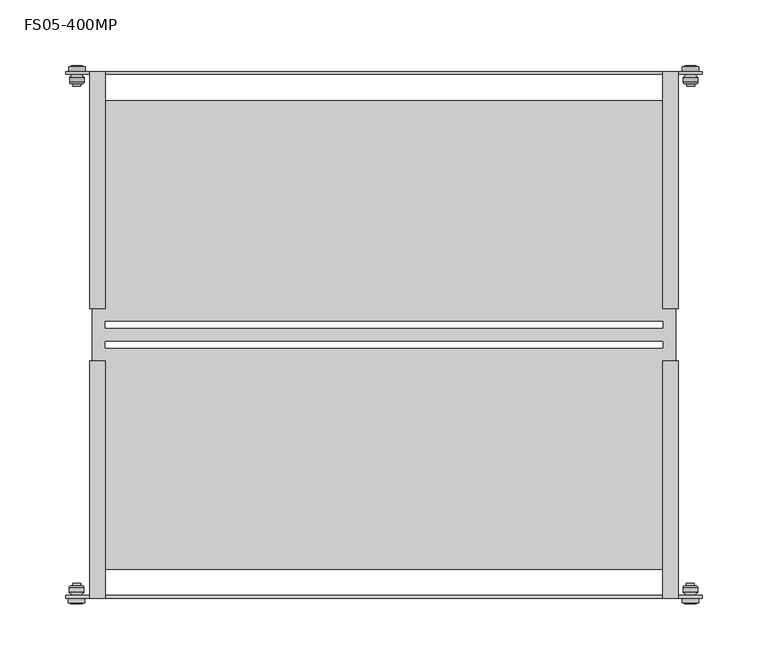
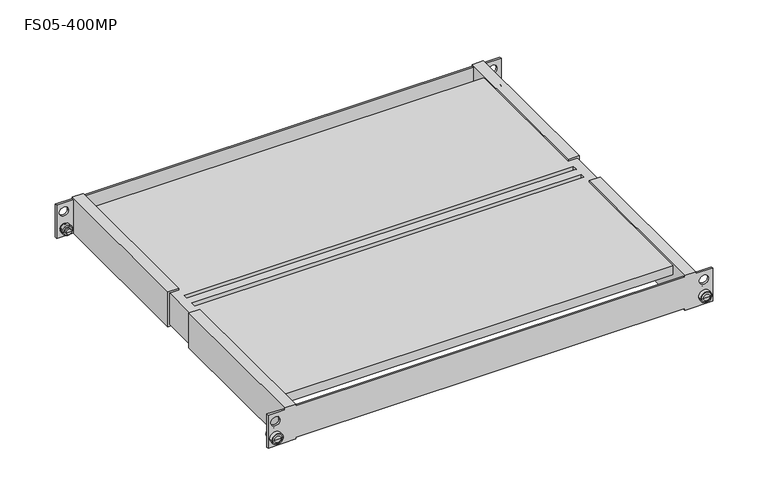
"""IFC4 building model written with IfcOpenShell, lengths in millimetres: proxy geometry, Полки стационарные усиленные : FS05-400MP."""

from ifc_helpers import new_model, si_unit, point, frame, origin, place, context, project, spatial, polyline, circle_curve, ellipse_curve, trimmed, source, transform, mapped, element, save
from ifc_brep_helpers import plane_surface, cylinder_surface, revolved_surface, advanced_brep


def fs05_400mp_c59a2a9c(model_context):
    return source(origin(), model_context, "Body", "AdvancedBrep", [
        advanced_brep(
        [(232.5819993, -204.3499926, 10.0), (236.0759317, -204.3499926, 10.0), (229.0880669, -204.3499926, 10.0), (229.5820007, -188.7499968, 10.0), (235.5819979, -188.7499968, 10.0), (232.5819993, -188.7499968, 10.0), (229.5820007, -190.7999942, 10.0), (235.5819979, -190.7999942, 10.0), (228.0787333, -190.7999942, 10.0), (237.0852653, -190.7999942, 10.0), (227.082003, -191.7967245, 10.0), (238.0819955, -191.7967245, 10.0), (227.082003, -195.8, 10.0), (238.0819955, -195.8, 10.0), (228.4086476, -198.0, 10.0), (236.755351, -198.0, 10.0), (228.4086476, -200.0, 10.0), (236.755351, -200.0, 10.0), (226.3319978, -200.0, 10.0), (238.8320008, -200.0, 10.0), (226.3319978, -203.5000006, 10.0), (238.8320008, -203.5000006, 10.0), (227.2038342, -203.5000006, 10.0), (237.9601644, -203.5000006, 10.0)],
        [
            (0, 1),
            (1, 2, circle_curve(frame((232.5819993, -204.3499926, 10.0), z_axis=(0.0, -1.0, 0.0), x_axis=(1.0, 0.0, 0.0)), 3.4939324)),
            (2, 0),
            (2, 1, circle_curve(frame((232.5819993, -204.3499926, 10.0), z_axis=(0.0, -1.0, 0.0), x_axis=(1.0, 0.0, 0.0)), 3.4939324)),
            (3, 4, circle_curve(frame((232.5819993, -188.7499968, 10.0), z_axis=(0.0, 1.0, 0.0), x_axis=(1.0, 0.0, 0.0)), 2.9999986)),
            (4, 5),
            (5, 3),
            (4, 3, circle_curve(frame((232.5819993, -188.7499968, 10.0), z_axis=(0.0, 1.0, 0.0), x_axis=(1.0, 0.0, 0.0)), 2.9999986)),
            (6, 7, circle_curve(frame((232.5819993, -190.7999942, 10.0), z_axis=(0.0, 1.0, 0.0), x_axis=(1.0, 0.0, 0.0)), 2.9999986)),
            (7, 4),
            (3, 6),
            (7, 6, circle_curve(frame((232.5819993, -190.7999942, 10.0), z_axis=(0.0, 1.0, 0.0), x_axis=(1.0, 0.0, 0.0)), 2.9999986)),
            (8, 9, circle_curve(frame((232.5819993, -190.7999942, 10.0), z_axis=(0.0, 1.0, 0.0), x_axis=(1.0, 0.0, 0.0)), 4.503266)),
            (9, 7),
            (6, 8),
            (9, 8, circle_curve(frame((232.5819993, -190.7999942, 10.0), z_axis=(0.0, 1.0, 0.0), x_axis=(1.0, 0.0, 0.0)), 4.503266)),
            (10, 11, circle_curve(frame((232.5819993, -191.7967245, 10.0), z_axis=(0.0, 1.0, 0.0), x_axis=(1.0, 0.0, 0.0)), 5.4999962)),
            (11, 9, circle_curve(frame((237.0852653, -191.7967245, 10.0), z_axis=(0.0, 0.0, 1.0), x_axis=(-1.0, 0.0, 0.0)), 0.9967303)),
            (8, 10, circle_curve(frame((228.0787333, -191.7967245, 10.0), z_axis=(0.0, 0.0, 1.0), x_axis=(1.0, 0.0, 0.0)), 0.9967303)),
            (11, 10, circle_curve(frame((232.5819993, -191.7967245, 10.0), z_axis=(0.0, 1.0, 0.0), x_axis=(1.0, 0.0, 0.0)), 5.4999962)),
            (12, 13, circle_curve(frame((232.5819993, -195.8, 10.0), z_axis=(0.0, 1.0, 0.0), x_axis=(1.0, 0.0, 0.0)), 5.4999962)),
            (13, 11),
            (10, 12),
            (13, 12, circle_curve(frame((232.5819993, -195.8, 10.0), z_axis=(0.0, 1.0, 0.0), x_axis=(1.0, 0.0, 0.0)), 5.4999962)),
            (14, 15, circle_curve(frame((232.5819993, -198.0, 10.0), z_axis=(0.0, 1.0, 0.0), x_axis=(1.0, 0.0, 0.0)), 4.1733517)),
            (15, 13, circle_curve(frame((238.0820009, -197.3, 10.0), z_axis=(0.0, 0.0, -1.0), x_axis=(-1.0, 0.0, 0.0)), 1.5)),
            (12, 14, circle_curve(frame((227.0819977, -197.3, 10.0), z_axis=(0.0, 0.0, -1.0), x_axis=(1.0, 0.0, 0.0)), 1.5)),
            (15, 14, circle_curve(frame((232.5819993, -198.0, 10.0), z_axis=(0.0, 1.0, 0.0), x_axis=(1.0, 0.0, 0.0)), 4.1733517)),
            (16, 17, circle_curve(frame((232.5819993, -200.0, 10.0), z_axis=(0.0, 1.0, 0.0), x_axis=(1.0, 0.0, 0.0)), 4.1733517)),
            (17, 15),
            (14, 16),
            (17, 16, circle_curve(frame((232.5819993, -200.0, 10.0), z_axis=(0.0, 1.0, 0.0), x_axis=(1.0, 0.0, 0.0)), 4.1733517)),
            (18, 19, circle_curve(frame((232.5819993, -200.0, 10.0), z_axis=(0.0, 1.0, 0.0), x_axis=(1.0, 0.0, 0.0)), 6.2500015)),
            (19, 17),
            (16, 18),
            (19, 18, circle_curve(frame((232.5819993, -200.0, 10.0), z_axis=(0.0, 1.0, 0.0), x_axis=(1.0, 0.0, 0.0)), 6.2500015)),
            (20, 21, circle_curve(frame((232.5819993, -203.5000006, 10.0), z_axis=(0.0, 1.0, 0.0), x_axis=(1.0, 0.0, 0.0)), 6.2500015)),
            (21, 19),
            (18, 20),
            (21, 20, circle_curve(frame((232.5819993, -203.5000006, 10.0), z_axis=(0.0, 1.0, 0.0), x_axis=(1.0, 0.0, 0.0)), 6.2500015)),
            (22, 23, circle_curve(frame((232.5819993, -203.5000006, 10.0), z_axis=(0.0, 1.0, 0.0), x_axis=(1.0, 0.0, 0.0)), 5.3781651)),
            (23, 21),
            (20, 22),
            (23, 22, circle_curve(frame((232.5819993, -203.5000006, 10.0), z_axis=(0.0, 1.0, 0.0), x_axis=(1.0, 0.0, 0.0)), 5.3781651)),
            (1, 23, circle_curve(frame((236.0820009, -201.85, 10.0), z_axis=(0.0, 0.0, 1.0), x_axis=(-1.0, 0.0, 0.0)), 2.5)),
            (22, 2, circle_curve(frame((229.0819977, -201.85, 10.0), z_axis=(0.0, 0.0, 1.0), x_axis=(1.0, 0.0, 0.0)), 2.5)),
        ],
        [
            plane_surface(frame((232.5819993, -204.3499926, 10.0), z_axis=(0.0, -1.0, 0.0), x_axis=(1.0, 0.0, 0.0))),
            plane_surface(frame((232.5819993, -188.7499968, 10.0), z_axis=(0.0, 1.0, 0.0), x_axis=(1.0, 0.0, 0.0))),
            cylinder_surface(frame((232.5819993, 2409.0581012, 10.0), z_axis=(0.0, -1.0, 0.0), x_axis=(1.0, 0.0, 0.0)), 2.9999986),
            plane_surface(frame((232.5819993, -190.7999942, 10.0), z_axis=(0.0, 1.0, 0.0), x_axis=(1.0, 0.0, 0.0))),
            revolved_surface(trimmed(ellipse_curve(frame((237.0852653, -191.7967245, 10.0), z_axis=(0.0, 0.0, -1.0), x_axis=(-1.0, 0.0, 0.0)), 0.9967303, 0.9967303), [point((237.0852653, -190.7999942, 10.0))], [point((238.0819955, -191.7967245, 10.0))], True, "CARTESIAN"), (232.5819993, 2409.0581012, 10.0), (0.0, -1.0, 0.0)),
            cylinder_surface(frame((232.5819993, 2409.0581012, 10.0), z_axis=(0.0, -1.0, 0.0), x_axis=(1.0, 0.0, 0.0)), 5.4999962),
            revolved_surface(trimmed(ellipse_curve(frame((238.0820009, -197.3, 10.0), z_axis=(0.0, 0.0, 1.0), x_axis=(-1.0, 0.0, 0.0)), 1.5, 1.5), [point((238.0819955, -195.8, 10.0))], [point((236.755351, -198.0, 10.0))], True, "CARTESIAN"), (232.5819993, 2409.0581012, 10.0), (0.0, -1.0, 0.0)),
            cylinder_surface(frame((232.5819993, 2409.0581012, 10.0), z_axis=(0.0, -1.0, 0.0), x_axis=(1.0, 0.0, 0.0)), 4.1733517),
            plane_surface(frame((232.5819993, -200.0, 10.0), z_axis=(0.0, 1.0, 0.0), x_axis=(1.0, 0.0, 0.0))),
            cylinder_surface(frame((232.5819993, 2409.0581012, 10.0), z_axis=(0.0, -1.0, 0.0), x_axis=(1.0, 0.0, 0.0)), 6.2500015),
            plane_surface(frame((232.5819993, -203.5000006, 10.0), z_axis=(0.0, -1.0, 0.0), x_axis=(1.0, 0.0, 0.0))),
            revolved_surface(trimmed(ellipse_curve(frame((236.0820009, -201.85, 10.0), z_axis=(0.0, 0.0, -1.0), x_axis=(-1.0, 0.0, 0.0)), 2.5, 2.5), [point((237.9601644, -203.5000006, 10.0))], [point((236.0759317, -204.3499926, 10.0))], True, "CARTESIAN"), (232.5819993, 2409.0581012, 10.0), (0.0, -1.0, 0.0)),
        ],
        [
            (0, [[1, 2, 3]]),
            (0, [[-3, 4, -1]]),
            (1, [[5, 6, 7]]),
            (1, [[8, -7, -6]]),
            (2, [[9, 10, -5, 11]]),
            (2, [[12, -11, -8, -10]]),
            (3, [[13, 14, -9, 15]]),
            (3, [[16, -15, -12, -14]]),
            (4, [[17, 18, -13, 19]]),
            (4, [[20, -19, -16, -18]]),
            (5, [[21, 22, -17, 23]]),
            (5, [[24, -23, -20, -22]]),
            (6, [[25, 26, -21, 27]]),
            (6, [[28, -27, -24, -26]]),
            (7, [[29, 30, -25, 31]]),
            (7, [[32, -31, -28, -30]]),
            (8, [[33, 34, -29, 35]]),
            (8, [[36, -35, -32, -34]]),
            (9, [[37, 38, -33, 39]]),
            (9, [[40, -39, -36, -38]]),
            (10, [[41, 42, -37, 43]]),
            (10, [[44, -43, -40, -42]]),
            (11, [[-2, 45, -41, 46]]),
            (11, [[-4, -46, -44, -45]]),
        ],
    ),
        advanced_brep(
        [(-233.3319993, -204.3499926, 10.0), (-229.8380669, -204.3499926, 10.0), (-236.8259317, -204.3499926, 10.0), (-230.3320007, -188.7499968, 10.0), (-233.3319993, -188.7499968, 10.0), (-236.3319979, -188.7499968, 10.0), (-230.3320007, -190.7999942, 10.0), (-236.3319979, -190.7999942, 10.0), (-228.8287333, -190.7999942, 10.0), (-237.8352653, -190.7999942, 10.0), (-227.832003, -191.7967245, 10.0), (-238.8319955, -191.7967245, 10.0), (-227.832003, -195.8, 10.0), (-238.8319955, -195.8, 10.0), (-229.1586476, -198.0, 10.0), (-237.505351, -198.0, 10.0), (-229.1586476, -200.0, 10.0), (-237.505351, -200.0, 10.0), (-227.0819978, -200.0, 10.0), (-239.5820008, -200.0, 10.0), (-227.0819978, -203.5000006, 10.0), (-239.5820008, -203.5000006, 10.0), (-227.9538342, -203.5000006, 10.0), (-238.7101644, -203.5000006, 10.0)],
        [
            (0, 1),
            (1, 2, circle_curve(frame((-233.3319993, -204.3499926, 10.0), z_axis=(0.0, -1.0, 0.0), x_axis=(-1.0, 0.0, 0.0)), 3.4939324)),
            (2, 0),
            (2, 1, circle_curve(frame((-233.3319993, -204.3499926, 10.0), z_axis=(0.0, -1.0, 0.0), x_axis=(-1.0, 0.0, 0.0)), 3.4939324)),
            (3, 4),
            (4, 5),
            (5, 3, circle_curve(frame((-233.3319993, -188.7499968, 10.0), z_axis=(0.0, 1.0, 0.0), x_axis=(-1.0, 0.0, 0.0)), 2.9999986)),
            (3, 5, circle_curve(frame((-233.3319993, -188.7499968, 10.0), z_axis=(0.0, 1.0, 0.0), x_axis=(-1.0, 0.0, 0.0)), 2.9999986)),
            (6, 3),
            (5, 7),
            (7, 6, circle_curve(frame((-233.3319993, -190.7999942, 10.0), z_axis=(0.0, 1.0, 0.0), x_axis=(-1.0, 0.0, 0.0)), 2.9999986)),
            (6, 7, circle_curve(frame((-233.3319993, -190.7999942, 10.0), z_axis=(0.0, 1.0, 0.0), x_axis=(-1.0, 0.0, 0.0)), 2.9999986)),
            (8, 6),
            (7, 9),
            (9, 8, circle_curve(frame((-233.3319993, -190.7999942, 10.0), z_axis=(0.0, 1.0, 0.0), x_axis=(-1.0, 0.0, 0.0)), 4.503266)),
            (8, 9, circle_curve(frame((-233.3319993, -190.7999942, 10.0), z_axis=(0.0, 1.0, 0.0), x_axis=(-1.0, 0.0, 0.0)), 4.503266)),
            (10, 8, circle_curve(frame((-228.8287333, -191.7967245, 10.0), z_axis=(0.0, 0.0, 1.0), x_axis=(-1.0, 0.0, 0.0)), 0.9967303)),
            (9, 11, circle_curve(frame((-237.8352653, -191.7967245, 10.0), z_axis=(0.0, 0.0, 1.0), x_axis=(1.0, 0.0, 0.0)), 0.9967303)),
            (11, 10, circle_curve(frame((-233.3319993, -191.7967245, 10.0), z_axis=(0.0, 1.0, 0.0), x_axis=(-1.0, 0.0, 0.0)), 5.4999962)),
            (10, 11, circle_curve(frame((-233.3319993, -191.7967245, 10.0), z_axis=(0.0, 1.0, 0.0), x_axis=(-1.0, 0.0, 0.0)), 5.4999962)),
            (12, 10),
            (11, 13),
            (13, 12, circle_curve(frame((-233.3319993, -195.8, 10.0), z_axis=(0.0, 1.0, 0.0), x_axis=(-1.0, 0.0, 0.0)), 5.4999962)),
            (12, 13, circle_curve(frame((-233.3319993, -195.8, 10.0), z_axis=(0.0, 1.0, 0.0), x_axis=(-1.0, 0.0, 0.0)), 5.4999962)),
            (14, 12, circle_curve(frame((-227.8319977, -197.3, 10.0), z_axis=(0.0, 0.0, -1.0), x_axis=(-1.0, 0.0, 0.0)), 1.5)),
            (13, 15, circle_curve(frame((-238.8320009, -197.3, 10.0), z_axis=(0.0, 0.0, -1.0), x_axis=(1.0, 0.0, 0.0)), 1.5)),
            (15, 14, circle_curve(frame((-233.3319993, -198.0, 10.0), z_axis=(0.0, 1.0, 0.0), x_axis=(-1.0, 0.0, 0.0)), 4.1733517)),
            (14, 15, circle_curve(frame((-233.3319993, -198.0, 10.0), z_axis=(0.0, 1.0, 0.0), x_axis=(-1.0, 0.0, 0.0)), 4.1733517)),
            (16, 14),
            (15, 17),
            (17, 16, circle_curve(frame((-233.3319993, -200.0, 10.0), z_axis=(0.0, 1.0, 0.0), x_axis=(-1.0, 0.0, 0.0)), 4.1733517)),
            (16, 17, circle_curve(frame((-233.3319993, -200.0, 10.0), z_axis=(0.0, 1.0, 0.0), x_axis=(-1.0, 0.0, 0.0)), 4.1733517)),
            (18, 16),
            (17, 19),
            (19, 18, circle_curve(frame((-233.3319993, -200.0, 10.0), z_axis=(0.0, 1.0, 0.0), x_axis=(-1.0, 0.0, 0.0)), 6.2500015)),
            (18, 19, circle_curve(frame((-233.3319993, -200.0, 10.0), z_axis=(0.0, 1.0, 0.0), x_axis=(-1.0, 0.0, 0.0)), 6.2500015)),
            (20, 18),
            (19, 21),
            (21, 20, circle_curve(frame((-233.3319993, -203.5000006, 10.0), z_axis=(0.0, 1.0, 0.0), x_axis=(-1.0, 0.0, 0.0)), 6.2500015)),
            (20, 21, circle_curve(frame((-233.3319993, -203.5000006, 10.0), z_axis=(0.0, 1.0, 0.0), x_axis=(-1.0, 0.0, 0.0)), 6.2500015)),
            (22, 20),
            (21, 23),
            (23, 22, circle_curve(frame((-233.3319993, -203.5000006, 10.0), z_axis=(0.0, 1.0, 0.0), x_axis=(-1.0, 0.0, 0.0)), 5.3781651)),
            (22, 23, circle_curve(frame((-233.3319993, -203.5000006, 10.0), z_axis=(0.0, 1.0, 0.0), x_axis=(-1.0, 0.0, 0.0)), 5.3781651)),
            (1, 22, circle_curve(frame((-229.8319977, -201.85, 10.0), z_axis=(0.0, 0.0, 1.0), x_axis=(-1.0, 0.0, 0.0)), 2.5)),
            (23, 2, circle_curve(frame((-236.8320009, -201.85, 10.0), z_axis=(0.0, 0.0, 1.0), x_axis=(1.0, 0.0, 0.0)), 2.5)),
        ],
        [
            plane_surface(frame((-233.3319993, -204.3499926, 10.0), z_axis=(0.0, -1.0, 0.0), x_axis=(-1.0, 0.0, 0.0))),
            plane_surface(frame((-233.3319993, -188.7499968, 10.0), z_axis=(0.0, 1.0, 0.0), x_axis=(-1.0, 0.0, 0.0))),
            cylinder_surface(frame((-233.3319993, 2409.0581012, 10.0), z_axis=(0.0, -1.0, 0.0), x_axis=(-1.0, 0.0, 0.0)), 2.9999986),
            plane_surface(frame((-233.3319993, -190.7999942, 10.0), z_axis=(0.0, 1.0, 0.0), x_axis=(-1.0, 0.0, 0.0))),
            revolved_surface(trimmed(ellipse_curve(frame((-237.8352653, -191.7967245, 10.0), z_axis=(0.0, 0.0, 1.0), x_axis=(1.0, 0.0, 0.0)), 0.9967303, 0.9967303), [point((-237.8352653, -190.7999942, 10.0))], [point((-238.8319955, -191.7967245, 10.0))], True, "CARTESIAN"), (-233.3319993, 2409.0581012, 10.0), (0.0, -1.0, 0.0)),
            cylinder_surface(frame((-233.3319993, 2409.0581012, 10.0), z_axis=(0.0, -1.0, 0.0), x_axis=(-1.0, 0.0, 0.0)), 5.4999962),
            revolved_surface(trimmed(ellipse_curve(frame((-238.8320009, -197.3, 10.0), z_axis=(0.0, 0.0, -1.0), x_axis=(1.0, 0.0, 0.0)), 1.5, 1.5), [point((-238.8319955, -195.8, 10.0))], [point((-237.505351, -198.0, 10.0))], True, "CARTESIAN"), (-233.3319993, 2409.0581012, 10.0), (0.0, -1.0, 0.0)),
            cylinder_surface(frame((-233.3319993, 2409.0581012, 10.0), z_axis=(0.0, -1.0, 0.0), x_axis=(-1.0, 0.0, 0.0)), 4.1733517),
            plane_surface(frame((-233.3319993, -200.0, 10.0), z_axis=(0.0, 1.0, 0.0), x_axis=(-1.0, 0.0, 0.0))),
            cylinder_surface(frame((-233.3319993, 2409.0581012, 10.0), z_axis=(0.0, -1.0, 0.0), x_axis=(-1.0, 0.0, 0.0)), 6.2500015),
            plane_surface(frame((-233.3319993, -203.5000006, 10.0), z_axis=(0.0, -1.0, 0.0), x_axis=(-1.0, 0.0, 0.0))),
            revolved_surface(trimmed(ellipse_curve(frame((-236.8320009, -201.85, 10.0), z_axis=(0.0, 0.0, 1.0), x_axis=(1.0, 0.0, 0.0)), 2.5, 2.5), [point((-238.7101644, -203.5000006, 10.0))], [point((-236.8259317, -204.3499926, 10.0))], True, "CARTESIAN"), (-233.3319993, 2409.0581012, 10.0), (0.0, -1.0, 0.0)),
        ],
        [
            (0, [[1, 2, 3]]),
            (0, [[-3, 4, -1]]),
            (1, [[5, 6, 7]]),
            (1, [[-6, -5, 8]]),
            (2, [[9, -7, 10, 11]]),
            (2, [[-10, -8, -9, 12]]),
            (3, [[13, -11, 14, 15]]),
            (3, [[-14, -12, -13, 16]]),
            (4, [[17, -15, 18, 19]]),
            (4, [[-18, -16, -17, 20]]),
            (5, [[21, -19, 22, 23]]),
            (5, [[-22, -20, -21, 24]]),
            (6, [[25, -23, 26, 27]]),
            (6, [[-26, -24, -25, 28]]),
            (7, [[29, -27, 30, 31]]),
            (7, [[-30, -28, -29, 32]]),
            (8, [[33, -31, 34, 35]]),
            (8, [[-34, -32, -33, 36]]),
            (9, [[37, -35, 38, 39]]),
            (9, [[-38, -36, -37, 40]]),
            (10, [[41, -39, 42, 43]]),
            (10, [[-42, -40, -41, 44]]),
            (11, [[45, -43, 46, -2]]),
            (11, [[-46, -44, -45, -4]]),
        ],
    ),
        advanced_brep(
        [(232.7069993, 204.3499926, 10.0), (229.2130669, 204.3499926, 10.0), (236.2009317, 204.3499926, 10.0), (229.7070007, 188.7499968, 10.0), (232.7069993, 188.7499968, 10.0), (235.7069979, 188.7499968, 10.0), (229.7070007, 190.7999942, 10.0), (235.7069979, 190.7999942, 10.0), (228.2037333, 190.7999942, 10.0), (237.2102653, 190.7999942, 10.0), (227.207003, 191.7967245, 10.0), (238.2069955, 191.7967245, 10.0), (227.207003, 195.8, 10.0), (238.2069955, 195.8, 10.0), (228.5336476, 198.0, 10.0), (236.880351, 198.0, 10.0), (228.5336476, 200.0, 10.0), (236.880351, 200.0, 10.0), (226.4569978, 200.0, 10.0), (238.9570008, 200.0, 10.0), (226.4569978, 203.5000006, 10.0), (238.9570008, 203.5000006, 10.0), (227.3288342, 203.5000006, 10.0), (238.0851644, 203.5000006, 10.0)],
        [
            (0, 1),
            (1, 2, circle_curve(frame((232.7069993, 204.3499926, 10.0), z_axis=(0.0, 1.0, 0.0), x_axis=(1.0, 0.0, 0.0)), 3.4939324)),
            (2, 0),
            (2, 1, circle_curve(frame((232.7069993, 204.3499926, 10.0), z_axis=(0.0, 1.0, 0.0), x_axis=(1.0, 0.0, 0.0)), 3.4939324)),
            (3, 4),
            (4, 5),
            (5, 3, circle_curve(frame((232.7069993, 188.7499968, 10.0), z_axis=(0.0, -1.0, 0.0), x_axis=(1.0, 0.0, 0.0)), 2.9999986)),
            (3, 5, circle_curve(frame((232.7069993, 188.7499968, 10.0), z_axis=(0.0, -1.0, 0.0), x_axis=(1.0, 0.0, 0.0)), 2.9999986)),
            (6, 3),
            (5, 7),
            (7, 6, circle_curve(frame((232.7069993, 190.7999942, 10.0), z_axis=(0.0, -1.0, 0.0), x_axis=(1.0, 0.0, 0.0)), 2.9999986)),
            (6, 7, circle_curve(frame((232.7069993, 190.7999942, 10.0), z_axis=(0.0, -1.0, 0.0), x_axis=(1.0, 0.0, 0.0)), 2.9999986)),
            (8, 6),
            (7, 9),
            (9, 8, circle_curve(frame((232.7069993, 190.7999942, 10.0), z_axis=(0.0, -1.0, 0.0), x_axis=(1.0, 0.0, 0.0)), 4.503266)),
            (8, 9, circle_curve(frame((232.7069993, 190.7999942, 10.0), z_axis=(0.0, -1.0, 0.0), x_axis=(1.0, 0.0, 0.0)), 4.503266)),
            (10, 8, circle_curve(frame((228.2037333, 191.7967245, 10.0), z_axis=(0.0, 0.0, 1.0), x_axis=(1.0, 0.0, 0.0)), 0.9967303)),
            (9, 11, circle_curve(frame((237.2102653, 191.7967245, 10.0), z_axis=(0.0, 0.0, 1.0), x_axis=(-1.0, 0.0, 0.0)), 0.9967303)),
            (11, 10, circle_curve(frame((232.7069993, 191.7967245, 10.0), z_axis=(0.0, -1.0, 0.0), x_axis=(1.0, 0.0, 0.0)), 5.4999962)),
            (10, 11, circle_curve(frame((232.7069993, 191.7967245, 10.0), z_axis=(0.0, -1.0, 0.0), x_axis=(1.0, 0.0, 0.0)), 5.4999962)),
            (12, 10),
            (11, 13),
            (13, 12, circle_curve(frame((232.7069993, 195.8, 10.0), z_axis=(0.0, -1.0, 0.0), x_axis=(1.0, 0.0, 0.0)), 5.4999962)),
            (12, 13, circle_curve(frame((232.7069993, 195.8, 10.0), z_axis=(0.0, -1.0, 0.0), x_axis=(1.0, 0.0, 0.0)), 5.4999962)),
            (14, 12, circle_curve(frame((227.2069977, 197.3, 10.0), z_axis=(0.0, 0.0, -1.0), x_axis=(1.0, 0.0, 0.0)), 1.5)),
            (13, 15, circle_curve(frame((238.2070009, 197.3, 10.0), z_axis=(0.0, 0.0, -1.0), x_axis=(-1.0, 0.0, 0.0)), 1.5)),
            (15, 14, circle_curve(frame((232.7069993, 198.0, 10.0), z_axis=(0.0, -1.0, 0.0), x_axis=(1.0, 0.0, 0.0)), 4.1733517)),
            (14, 15, circle_curve(frame((232.7069993, 198.0, 10.0), z_axis=(0.0, -1.0, 0.0), x_axis=(1.0, 0.0, 0.0)), 4.1733517)),
            (16, 14),
            (15, 17),
            (17, 16, circle_curve(frame((232.7069993, 200.0, 10.0), z_axis=(0.0, -1.0, 0.0), x_axis=(1.0, 0.0, 0.0)), 4.1733517)),
            (16, 17, circle_curve(frame((232.7069993, 200.0, 10.0), z_axis=(0.0, -1.0, 0.0), x_axis=(1.0, 0.0, 0.0)), 4.1733517)),
            (18, 16),
            (17, 19),
            (19, 18, circle_curve(frame((232.7069993, 200.0, 10.0), z_axis=(0.0, -1.0, 0.0), x_axis=(1.0, 0.0, 0.0)), 6.2500015)),
            (18, 19, circle_curve(frame((232.7069993, 200.0, 10.0), z_axis=(0.0, -1.0, 0.0), x_axis=(1.0, 0.0, 0.0)), 6.2500015)),
            (20, 18),
            (19, 21),
            (21, 20, circle_curve(frame((232.7069993, 203.5000006, 10.0), z_axis=(0.0, -1.0, 0.0), x_axis=(1.0, 0.0, 0.0)), 6.2500015)),
            (20, 21, circle_curve(frame((232.7069993, 203.5000006, 10.0), z_axis=(0.0, -1.0, 0.0), x_axis=(1.0, 0.0, 0.0)), 6.2500015)),
            (22, 20),
            (21, 23),
            (23, 22, circle_curve(frame((232.7069993, 203.5000006, 10.0), z_axis=(0.0, -1.0, 0.0), x_axis=(1.0, 0.0, 0.0)), 5.3781651)),
            (22, 23, circle_curve(frame((232.7069993, 203.5000006, 10.0), z_axis=(0.0, -1.0, 0.0), x_axis=(1.0, 0.0, 0.0)), 5.3781651)),
            (1, 22, circle_curve(frame((229.2069977, 201.85, 10.0), z_axis=(0.0, 0.0, 1.0), x_axis=(1.0, 0.0, 0.0)), 2.5)),
            (23, 2, circle_curve(frame((236.2070009, 201.85, 10.0), z_axis=(0.0, 0.0, 1.0), x_axis=(-1.0, 0.0, 0.0)), 2.5)),
        ],
        [
            plane_surface(frame((232.7069993, 204.3499926, 10.0), z_axis=(0.0, 1.0, 0.0), x_axis=(1.0, 0.0, 0.0))),
            plane_surface(frame((232.7069993, 188.7499968, 10.0), z_axis=(0.0, -1.0, 0.0), x_axis=(1.0, 0.0, 0.0))),
            cylinder_surface(frame((232.7069993, -2409.0581012, 10.0), z_axis=(0.0, 1.0, 0.0), x_axis=(1.0, 0.0, 0.0)), 2.9999986),
            plane_surface(frame((232.7069993, 190.7999942, 10.0), z_axis=(0.0, -1.0, 0.0), x_axis=(1.0, 0.0, 0.0))),
            revolved_surface(trimmed(ellipse_curve(frame((237.2102653, 191.7967245, 10.0), z_axis=(0.0, 0.0, 1.0), x_axis=(-1.0, 0.0, 0.0)), 0.9967303, 0.9967303), [point((237.2102653, 190.7999942, 10.0))], [point((238.2069955, 191.7967245, 10.0))], True, "CARTESIAN"), (232.7069993, -2409.0581012, 10.0), (0.0, 1.0, 0.0)),
            cylinder_surface(frame((232.7069993, -2409.0581012, 10.0), z_axis=(0.0, 1.0, 0.0), x_axis=(1.0, 0.0, 0.0)), 5.4999962),
            revolved_surface(trimmed(ellipse_curve(frame((238.2070009, 197.3, 10.0), z_axis=(0.0, 0.0, -1.0), x_axis=(-1.0, 0.0, 0.0)), 1.5, 1.5), [point((238.2069955, 195.8, 10.0))], [point((236.880351, 198.0, 10.0))], True, "CARTESIAN"), (232.7069993, -2409.0581012, 10.0), (0.0, 1.0, 0.0)),
            cylinder_surface(frame((232.7069993, -2409.0581012, 10.0), z_axis=(0.0, 1.0, 0.0), x_axis=(1.0, 0.0, 0.0)), 4.1733517),
            plane_surface(frame((232.7069993, 200.0, 10.0), z_axis=(0.0, -1.0, 0.0), x_axis=(1.0, 0.0, 0.0))),
            cylinder_surface(frame((232.7069993, -2409.0581012, 10.0), z_axis=(0.0, 1.0, 0.0), x_axis=(1.0, 0.0, 0.0)), 6.2500015),
            plane_surface(frame((232.7069993, 203.5000006, 10.0), z_axis=(0.0, 1.0, 0.0), x_axis=(1.0, 0.0, 0.0))),
            revolved_surface(trimmed(ellipse_curve(frame((236.2070009, 201.85, 10.0), z_axis=(0.0, 0.0, 1.0), x_axis=(-1.0, 0.0, 0.0)), 2.5, 2.5), [point((238.0851644, 203.5000006, 10.0))], [point((236.2009317, 204.3499926, 10.0))], True, "CARTESIAN"), (232.7069993, -2409.0581012, 10.0), (0.0, 1.0, 0.0)),
        ],
        [
            (0, [[1, 2, 3]]),
            (0, [[-3, 4, -1]]),
            (1, [[5, 6, 7]]),
            (1, [[-6, -5, 8]]),
            (2, [[9, -7, 10, 11]]),
            (2, [[-10, -8, -9, 12]]),
            (3, [[13, -11, 14, 15]]),
            (3, [[-14, -12, -13, 16]]),
            (4, [[17, -15, 18, 19]]),
            (4, [[-18, -16, -17, 20]]),
            (5, [[21, -19, 22, 23]]),
            (5, [[-22, -20, -21, 24]]),
            (6, [[25, -23, 26, 27]]),
            (6, [[-26, -24, -25, 28]]),
            (7, [[29, -27, 30, 31]]),
            (7, [[-30, -28, -29, 32]]),
            (8, [[33, -31, 34, 35]]),
            (8, [[-34, -32, -33, 36]]),
            (9, [[37, -35, 38, 39]]),
            (9, [[-38, -36, -37, 40]]),
            (10, [[41, -39, 42, 43]]),
            (10, [[-42, -40, -41, 44]]),
            (11, [[45, -43, 46, -2]]),
            (11, [[-46, -44, -45, -4]]),
        ],
    ),
        advanced_brep(
        [(-233.2069993, 204.3499926, 10.0), (-236.7009317, 204.3499926, 10.0), (-229.7130669, 204.3499926, 10.0), (-230.2070007, 188.7499968, 10.0), (-236.2069979, 188.7499968, 10.0), (-233.2069993, 188.7499968, 10.0), (-230.2070007, 190.7999942, 10.0), (-236.2069979, 190.7999942, 10.0), (-228.7037333, 190.7999942, 10.0), (-237.7102653, 190.7999942, 10.0), (-227.707003, 191.7967245, 10.0), (-238.7069955, 191.7967245, 10.0), (-227.707003, 195.8, 10.0), (-238.7069955, 195.8, 10.0), (-229.0336476, 198.0, 10.0), (-237.380351, 198.0, 10.0), (-229.0336476, 200.0, 10.0), (-237.380351, 200.0, 10.0), (-226.9569978, 200.0, 10.0), (-239.4570008, 200.0, 10.0), (-226.9569978, 203.5000006, 10.0), (-239.4570008, 203.5000006, 10.0), (-227.8288342, 203.5000006, 10.0), (-238.5851644, 203.5000006, 10.0)],
        [
            (0, 1),
            (1, 2, circle_curve(frame((-233.2069993, 204.3499926, 10.0), z_axis=(0.0, 1.0, 0.0), x_axis=(-1.0, 0.0, 0.0)), 3.4939324)),
            (2, 0),
            (2, 1, circle_curve(frame((-233.2069993, 204.3499926, 10.0), z_axis=(0.0, 1.0, 0.0), x_axis=(-1.0, 0.0, 0.0)), 3.4939324)),
            (3, 4, circle_curve(frame((-233.2069993, 188.7499968, 10.0), z_axis=(0.0, -1.0, 0.0), x_axis=(-1.0, 0.0, 0.0)), 2.9999986)),
            (4, 5),
            (5, 3),
            (4, 3, circle_curve(frame((-233.2069993, 188.7499968, 10.0), z_axis=(0.0, -1.0, 0.0), x_axis=(-1.0, 0.0, 0.0)), 2.9999986)),
            (6, 7, circle_curve(frame((-233.2069993, 190.7999942, 10.0), z_axis=(0.0, -1.0, 0.0), x_axis=(-1.0, 0.0, 0.0)), 2.9999986)),
            (7, 4),
            (3, 6),
            (7, 6, circle_curve(frame((-233.2069993, 190.7999942, 10.0), z_axis=(0.0, -1.0, 0.0), x_axis=(-1.0, 0.0, 0.0)), 2.9999986)),
            (8, 9, circle_curve(frame((-233.2069993, 190.7999942, 10.0), z_axis=(0.0, -1.0, 0.0), x_axis=(-1.0, 0.0, 0.0)), 4.503266)),
            (9, 7),
            (6, 8),
            (9, 8, circle_curve(frame((-233.2069993, 190.7999942, 10.0), z_axis=(0.0, -1.0, 0.0), x_axis=(-1.0, 0.0, 0.0)), 4.503266)),
            (10, 11, circle_curve(frame((-233.2069993, 191.7967245, 10.0), z_axis=(0.0, -1.0, 0.0), x_axis=(-1.0, 0.0, 0.0)), 5.4999962)),
            (11, 9, circle_curve(frame((-237.7102653, 191.7967245, 10.0), z_axis=(0.0, 0.0, 1.0), x_axis=(1.0, 0.0, 0.0)), 0.9967303)),
            (8, 10, circle_curve(frame((-228.7037333, 191.7967245, 10.0), z_axis=(0.0, 0.0, 1.0), x_axis=(-1.0, 0.0, 0.0)), 0.9967303)),
            (11, 10, circle_curve(frame((-233.2069993, 191.7967245, 10.0), z_axis=(0.0, -1.0, 0.0), x_axis=(-1.0, 0.0, 0.0)), 5.4999962)),
            (12, 13, circle_curve(frame((-233.2069993, 195.8, 10.0), z_axis=(0.0, -1.0, 0.0), x_axis=(-1.0, 0.0, 0.0)), 5.4999962)),
            (13, 11),
            (10, 12),
            (13, 12, circle_curve(frame((-233.2069993, 195.8, 10.0), z_axis=(0.0, -1.0, 0.0), x_axis=(-1.0, 0.0, 0.0)), 5.4999962)),
            (14, 15, circle_curve(frame((-233.2069993, 198.0, 10.0), z_axis=(0.0, -1.0, 0.0), x_axis=(-1.0, 0.0, 0.0)), 4.1733517)),
            (15, 13, circle_curve(frame((-238.7070009, 197.3, 10.0), z_axis=(0.0, 0.0, -1.0), x_axis=(1.0, 0.0, 0.0)), 1.5)),
            (12, 14, circle_curve(frame((-227.7069977, 197.3, 10.0), z_axis=(0.0, 0.0, -1.0), x_axis=(-1.0, 0.0, 0.0)), 1.5)),
            (15, 14, circle_curve(frame((-233.2069993, 198.0, 10.0), z_axis=(0.0, -1.0, 0.0), x_axis=(-1.0, 0.0, 0.0)), 4.1733517)),
            (16, 17, circle_curve(frame((-233.2069993, 200.0, 10.0), z_axis=(0.0, -1.0, 0.0), x_axis=(-1.0, 0.0, 0.0)), 4.1733517)),
            (17, 15),
            (14, 16),
            (17, 16, circle_curve(frame((-233.2069993, 200.0, 10.0), z_axis=(0.0, -1.0, 0.0), x_axis=(-1.0, 0.0, 0.0)), 4.1733517)),
            (18, 19, circle_curve(frame((-233.2069993, 200.0, 10.0), z_axis=(0.0, -1.0, 0.0), x_axis=(-1.0, 0.0, 0.0)), 6.2500015)),
            (19, 17),
            (16, 18),
            (19, 18, circle_curve(frame((-233.2069993, 200.0, 10.0), z_axis=(0.0, -1.0, 0.0), x_axis=(-1.0, 0.0, 0.0)), 6.2500015)),
            (20, 21, circle_curve(frame((-233.2069993, 203.5000006, 10.0), z_axis=(0.0, -1.0, 0.0), x_axis=(-1.0, 0.0, 0.0)), 6.2500015)),
            (21, 19),
            (18, 20),
            (21, 20, circle_curve(frame((-233.2069993, 203.5000006, 10.0), z_axis=(0.0, -1.0, 0.0), x_axis=(-1.0, 0.0, 0.0)), 6.2500015)),
            (22, 23, circle_curve(frame((-233.2069993, 203.5000006, 10.0), z_axis=(0.0, -1.0, 0.0), x_axis=(-1.0, 0.0, 0.0)), 5.3781651)),
            (23, 21),
            (20, 22),
            (23, 22, circle_curve(frame((-233.2069993, 203.5000006, 10.0), z_axis=(0.0, -1.0, 0.0), x_axis=(-1.0, 0.0, 0.0)), 5.3781651)),
            (1, 23, circle_curve(frame((-236.7070009, 201.85, 10.0), z_axis=(0.0, 0.0, 1.0), x_axis=(1.0, 0.0, 0.0)), 2.5)),
            (22, 2, circle_curve(frame((-229.7069977, 201.85, 10.0), z_axis=(0.0, 0.0, 1.0), x_axis=(-1.0, 0.0, 0.0)), 2.5)),
        ],
        [
            plane_surface(frame((-233.2069993, 204.3499926, 10.0), z_axis=(0.0, 1.0, 0.0), x_axis=(-1.0, 0.0, 0.0))),
            plane_surface(frame((-233.2069993, 188.7499968, 10.0), z_axis=(0.0, -1.0, 0.0), x_axis=(-1.0, 0.0, 0.0))),
            cylinder_surface(frame((-233.2069993, -2409.0581012, 10.0), z_axis=(0.0, 1.0, 0.0), x_axis=(-1.0, 0.0, 0.0)), 2.9999986),
            plane_surface(frame((-233.2069993, 190.7999942, 10.0), z_axis=(0.0, -1.0, 0.0), x_axis=(-1.0, 0.0, 0.0))),
            revolved_surface(trimmed(ellipse_curve(frame((-237.7102653, 191.7967245, 10.0), z_axis=(0.0, 0.0, -1.0), x_axis=(1.0, 0.0, 0.0)), 0.9967303, 0.9967303), [point((-237.7102653, 190.7999942, 10.0))], [point((-238.7069955, 191.7967245, 10.0))], True, "CARTESIAN"), (-233.2069993, -2409.0581012, 10.0), (0.0, 1.0, 0.0)),
            cylinder_surface(frame((-233.2069993, -2409.0581012, 10.0), z_axis=(0.0, 1.0, 0.0), x_axis=(-1.0, 0.0, 0.0)), 5.4999962),
            revolved_surface(trimmed(ellipse_curve(frame((-238.7070009, 197.3, 10.0), z_axis=(0.0, 0.0, 1.0), x_axis=(1.0, 0.0, 0.0)), 1.5, 1.5), [point((-238.7069955, 195.8, 10.0))], [point((-237.380351, 198.0, 10.0))], True, "CARTESIAN"), (-233.2069993, -2409.0581012, 10.0), (0.0, 1.0, 0.0)),
            cylinder_surface(frame((-233.2069993, -2409.0581012, 10.0), z_axis=(0.0, 1.0, 0.0), x_axis=(-1.0, 0.0, 0.0)), 4.1733517),
            plane_surface(frame((-233.2069993, 200.0, 10.0), z_axis=(0.0, -1.0, 0.0), x_axis=(-1.0, 0.0, 0.0))),
            cylinder_surface(frame((-233.2069993, -2409.0581012, 10.0), z_axis=(0.0, 1.0, 0.0), x_axis=(-1.0, 0.0, 0.0)), 6.2500015),
            plane_surface(frame((-233.2069993, 203.5000006, 10.0), z_axis=(0.0, 1.0, 0.0), x_axis=(-1.0, 0.0, 0.0))),
            revolved_surface(trimmed(ellipse_curve(frame((-236.7070009, 201.85, 10.0), z_axis=(0.0, 0.0, -1.0), x_axis=(1.0, 0.0, 0.0)), 2.5, 2.5), [point((-238.5851644, 203.5000006, 10.0))], [point((-236.7009317, 204.3499926, 10.0))], True, "CARTESIAN"), (-233.2069993, -2409.0581012, 10.0), (0.0, 1.0, 0.0)),
        ],
        [
            (0, [[1, 2, 3]]),
            (0, [[-3, 4, -1]]),
            (1, [[5, 6, 7]]),
            (1, [[8, -7, -6]]),
            (2, [[9, 10, -5, 11]]),
            (2, [[12, -11, -8, -10]]),
            (3, [[13, 14, -9, 15]]),
            (3, [[16, -15, -12, -14]]),
            (4, [[17, 18, -13, 19]]),
            (4, [[20, -19, -16, -18]]),
            (5, [[21, 22, -17, 23]]),
            (5, [[24, -23, -20, -22]]),
            (6, [[25, 26, -21, 27]]),
            (6, [[28, -27, -24, -26]]),
            (7, [[29, 30, -25, 31]]),
            (7, [[32, -31, -28, -30]]),
            (8, [[33, 34, -29, 35]]),
            (8, [[36, -35, -32, -34]]),
            (9, [[37, 38, -33, 39]]),
            (9, [[40, -39, -36, -38]]),
            (10, [[41, 42, -37, 43]]),
            (10, [[44, -43, -40, -42]]),
            (11, [[-2, 45, -41, 46]]),
            (11, [[-4, -46, -44, -45]]),
        ],
    ),
        advanced_brep(
        [(-211.5, -200.0, 38.0), (-211.5, -200.0, 40.0), (-223.5, -200.0, 40.0), (-223.5, -200.0, 38.0), (-241.5, -200.0, 38.0), (-241.5, -200.0, 0.0), (-211.5, -200.0, 0.0), (-211.5, -200.0, 2.0), (211.5, -200.0, 2.0), (211.5, -200.0, 0.0), (241.5, -200.0, 0.0), (241.5, -200.0, 38.0), (223.5, -200.0, 38.0), (223.5, -200.0, 40.0), (211.5, -200.0, 40.0), (211.5, -200.0, 38.0), (-228.4375, -200.0, 28.0), (-238.4375, -200.0, 28.0), (237.1875, -200.0, 28.0), (227.1875, -200.0, 28.0), (-211.5, -20.0, 2.0), (-211.5, -20.0, 0.0), (-223.5, -20.0, 0.0), (-223.5, -20.0, 40.0), (-211.5, -20.0, 40.0), (-211.5, -20.0, 38.0), (-221.5, -20.0, 38.0), (-221.5, -20.0, 2.0), (211.5, -20.0, 38.0), (211.5, -20.0, 40.0), (223.5, -20.0, 40.0), (223.5, -20.0, 0.0), (211.5, -20.0, 0.0), (211.5, -20.0, 2.0), (221.5, -20.0, 2.0), (221.5, -20.0, 38.0), (-211.5, -198.0, 38.0), (-211.5, -198.0, 2.0), (-211.5, -5.0, 2.0), (-211.5, -5.0, 38.0), (-211.5, -10.0, 38.0), (-211.5, -10.0, 28.0), (-211.5, -178.0, 28.0), (-211.5, -178.0, 38.0), (-241.5, -198.0, 0.0), (-223.5, -198.0, 0.0), (223.5, -198.0, 0.0), (241.5, -198.0, 0.0), (-241.5, 198.0, 0.0), (-241.5, 200.0, 0.0), (-211.5, 200.0, 0.0), (-211.5, 20.0, 0.0), (-223.5, 20.0, 0.0), (-223.5, 198.0, 0.0), (241.5, 200.0, 0.0), (241.5, 198.0, 0.0), (223.5, 198.0, 0.0), (223.5, 20.0, 0.0), (211.5, 20.0, 0.0), (211.5, 200.0, 0.0), (211.5, -198.0, 2.0), (211.5, -198.0, 38.0), (211.5, -178.0, 38.0), (211.5, -178.0, 28.0), (211.5, -10.0, 28.0), (211.5, -10.0, 38.0), (211.5, -5.0, 38.0), (211.5, -5.0, 2.0), (-241.5, 198.0, 38.0), (-223.5, 198.0, 38.0), (-223.5, 200.0, 38.0), (-241.5, 200.0, 38.0), (-223.5, -198.0, 38.0), (-241.5, -198.0, 38.0), (241.5, -198.0, 38.0), (223.5, -198.0, 38.0), (241.5, 200.0, 38.0), (223.5, 200.0, 38.0), (223.5, 198.0, 38.0), (241.5, 198.0, 38.0), (-228.4375, 198.0, 28.0), (-238.4375, 198.0, 28.0), (-223.5, 200.0, 40.0), (-211.5, 200.0, 40.0), (-211.5, 200.0, 38.0), (211.5, 200.0, 38.0), (211.5, 200.0, 40.0), (223.5, 200.0, 40.0), (211.5, 200.0, 2.0), (-211.5, 200.0, 2.0), (-238.4375, 200.0, 28.0), (-228.4375, 200.0, 28.0), (227.1875, 200.0, 28.0), (237.1875, 200.0, 28.0), (-238.4375, -198.0, 28.0), (-228.4375, -198.0, 28.0), (227.1875, -198.0, 28.0), (237.1875, -198.0, 28.0), (237.1875, 198.0, 28.0), (227.1875, 198.0, 28.0), (-211.5, 20.0, 38.0), (-211.5, 20.0, 40.0), (-223.5, 20.0, 40.0), (-211.5, 20.0, 2.0), (-221.5, 20.0, 2.0), (-221.5, 20.0, 38.0), (211.5, 20.0, 2.0), (223.5, 20.0, 40.0), (211.5, 20.0, 40.0), (211.5, 20.0, 38.0), (221.5, 20.0, 38.0), (221.5, 20.0, 2.0), (-211.5, 178.0, 38.0), (-211.5, 178.0, 28.0), (-211.5, 10.0, 28.0), (-211.5, 10.0, 38.0), (-211.5, 5.0, 38.0), (-211.5, 5.0, 2.0), (-211.5, 198.0, 2.0), (-211.5, 198.0, 38.0), (211.5, 5.0, 2.0), (211.5, 5.0, 38.0), (211.5, 10.0, 38.0), (211.5, 10.0, 28.0), (211.5, 178.0, 28.0), (211.5, 178.0, 38.0), (211.5, 198.0, 38.0), (211.5, 198.0, 2.0)],
        [
            (0, 1),
            (1, 2),
            (2, 3),
            (3, 4),
            (4, 5),
            (5, 6),
            (6, 7),
            (7, 8),
            (8, 9),
            (9, 10),
            (10, 11),
            (11, 12),
            (12, 13),
            (13, 14),
            (14, 15),
            (15, 0),
            (16, 17, circle_curve(frame((-233.4375, -200.0, 28.0), z_axis=(0.0, 1.0, 0.0), x_axis=(1.0, 0.0, 0.0)), 5.0)),
            (17, 16, circle_curve(frame((-233.4375, -200.0, 28.0), z_axis=(0.0, 1.0, 0.0), x_axis=(1.0, 0.0, 0.0)), 5.0)),
            (18, 19, circle_curve(frame((232.1875, -200.0, 28.0), z_axis=(0.0, 1.0, 0.0), x_axis=(1.0, 0.0, 0.0)), 5.0)),
            (19, 18, circle_curve(frame((232.1875, -200.0, 28.0), z_axis=(0.0, 1.0, 0.0), x_axis=(1.0, 0.0, 0.0)), 5.0)),
            (20, 21),
            (21, 22),
            (22, 23),
            (23, 24),
            (24, 25),
            (25, 26),
            (26, 27),
            (27, 20),
            (28, 29),
            (29, 30),
            (30, 31),
            (31, 32),
            (32, 33),
            (33, 34),
            (34, 35),
            (35, 28),
            (0, 36),
            (36, 37),
            (37, 7),
            (6, 21),
            (20, 38),
            (38, 39),
            (39, 40),
            (40, 41),
            (41, 42),
            (42, 43),
            (43, 25),
            (24, 1),
            (5, 44),
            (44, 45),
            (45, 22),
            (31, 46),
            (46, 47),
            (47, 10),
            (9, 32),
            (48, 49),
            (49, 50),
            (50, 51),
            (51, 52),
            (52, 53),
            (53, 48),
            (54, 55),
            (55, 56),
            (56, 57),
            (57, 58),
            (58, 59),
            (59, 54),
            (8, 60),
            (60, 61),
            (61, 15),
            (14, 29),
            (28, 62),
            (62, 63),
            (63, 64),
            (64, 65),
            (65, 66),
            (66, 67),
            (67, 33),
            (68, 69),
            (69, 70),
            (70, 71),
            (71, 68),
            (72, 73),
            (73, 4),
            (3, 72),
            (74, 75),
            (75, 12),
            (11, 74),
            (76, 77),
            (77, 78),
            (78, 79),
            (79, 76),
            (68, 48),
            (53, 69),
            (80, 81, circle_curve(frame((-233.4375, 198.0, 28.0), z_axis=(0.0, 1.0, 0.0), x_axis=(1.0, 0.0, 0.0)), 5.0)),
            (81, 80, circle_curve(frame((-233.4375, 198.0, 28.0), z_axis=(0.0, 1.0, 0.0), x_axis=(1.0, 0.0, 0.0)), 5.0)),
            (70, 82),
            (82, 83),
            (83, 84),
            (84, 85),
            (85, 86),
            (86, 87),
            (87, 77),
            (76, 54),
            (59, 88),
            (88, 89),
            (89, 50),
            (49, 71),
            (90, 91, circle_curve(frame((-233.4375, 200.0, 28.0), z_axis=(0.0, -1.0, 0.0), x_axis=(1.0, 0.0, 0.0)), 5.0)),
            (91, 90, circle_curve(frame((-233.4375, 200.0, 28.0), z_axis=(0.0, -1.0, 0.0), x_axis=(1.0, 0.0, 0.0)), 5.0)),
            (92, 93, circle_curve(frame((232.1875, 200.0, 28.0), z_axis=(0.0, -1.0, 0.0), x_axis=(1.0, 0.0, 0.0)), 5.0)),
            (93, 92, circle_curve(frame((232.1875, 200.0, 28.0), z_axis=(0.0, -1.0, 0.0), x_axis=(1.0, 0.0, 0.0)), 5.0)),
            (72, 45),
            (44, 73),
            (94, 95, circle_curve(frame((-233.4375, -198.0, 28.0), z_axis=(0.0, -1.0, 0.0), x_axis=(1.0, 0.0, 0.0)), 5.0)),
            (95, 94, circle_curve(frame((-233.4375, -198.0, 28.0), z_axis=(0.0, -1.0, 0.0), x_axis=(1.0, 0.0, 0.0)), 5.0)),
            (74, 47),
            (46, 75),
            (96, 97, circle_curve(frame((232.1875, -198.0, 28.0), z_axis=(0.0, -1.0, 0.0), x_axis=(1.0, 0.0, 0.0)), 5.0)),
            (97, 96, circle_curve(frame((232.1875, -198.0, 28.0), z_axis=(0.0, -1.0, 0.0), x_axis=(1.0, 0.0, 0.0)), 5.0)),
            (78, 56),
            (55, 79),
            (98, 99, circle_curve(frame((232.1875, 198.0, 28.0), z_axis=(0.0, 1.0, 0.0), x_axis=(1.0, 0.0, 0.0)), 5.0)),
            (99, 98, circle_curve(frame((232.1875, 198.0, 28.0), z_axis=(0.0, 1.0, 0.0), x_axis=(1.0, 0.0, 0.0)), 5.0)),
            (23, 2),
            (30, 13),
            (100, 101),
            (101, 102),
            (102, 52),
            (51, 103),
            (103, 104),
            (104, 105),
            (105, 100),
            (106, 58),
            (57, 107),
            (107, 108),
            (108, 109),
            (109, 110),
            (110, 111),
            (111, 106),
            (83, 101),
            (100, 112),
            (112, 113),
            (113, 114),
            (114, 115),
            (115, 116),
            (116, 117),
            (117, 103),
            (89, 118),
            (118, 119),
            (119, 84),
            (106, 120),
            (120, 121),
            (121, 122),
            (122, 123),
            (123, 124),
            (124, 125),
            (125, 109),
            (108, 86),
            (85, 126),
            (126, 127),
            (127, 88),
            (82, 102),
            (87, 107),
            (90, 81),
            (80, 91),
            (94, 17),
            (16, 95),
            (96, 19),
            (18, 97),
            (92, 99),
            (98, 93),
            (43, 62),
            (35, 110),
            (125, 112),
            (105, 26),
            (115, 122),
            (121, 116),
            (65, 40),
            (39, 66),
            (119, 126),
            (61, 36),
            (63, 42),
            (41, 64),
            (104, 27),
            (34, 111),
            (123, 114),
            (113, 124),
            (127, 118),
            (117, 120),
            (67, 38),
            (37, 60),
        ],
        [
            plane_surface(frame((-211.5, -200.0, 38.0), z_axis=(0.0, -1.0, 0.0), x_axis=(0.0, 0.0, 1.0))),
            plane_surface(frame((-211.5, -20.0, 38.0), z_axis=(0.0, 1.0, 0.0), x_axis=(0.0, 0.0, -1.0))),
            plane_surface(frame((-211.5, -200.0, 38.0), z_axis=(1.0, 0.0, 0.0), x_axis=(0.0, 1.0, 0.0))),
            plane_surface(frame((-223.5, -200.0, 0.0), z_axis=(0.0, 0.0, -1.0), x_axis=(0.0, 1.0, 0.0))),
            plane_surface(frame((211.5, -200.0, 2.0), z_axis=(-1.0, 0.0, 0.0), x_axis=(0.0, 1.0, 0.0))),
            plane_surface(frame((-223.5, 198.0, 38.0), z_axis=(0.0, 0.0, 1.0), x_axis=(1.0, 0.0, 0.0))),
            plane_surface(frame((-241.5, 198.0, 38.0), z_axis=(0.0, -1.0, 0.0), x_axis=(0.0, 0.0, -1.0))),
            plane_surface(frame((-223.5, 200.0, 38.0), z_axis=(0.0, 1.0, 0.0), x_axis=(0.0, 0.0, -1.0))),
            plane_surface(frame((-241.5, 200.0, 38.0), z_axis=(-1.0, 0.0, 0.0), x_axis=(0.0, 0.0, -1.0))),
            plane_surface(frame((-223.5, -198.0, 38.0), z_axis=(0.0, 1.0, 0.0), x_axis=(0.0, 0.0, -1.0))),
            plane_surface(frame((-241.5, -198.0, 38.0), z_axis=(-1.0, 0.0, 0.0), x_axis=(0.0, 0.0, -1.0))),
            plane_surface(frame((241.5, -198.0, 38.0), z_axis=(0.0, 1.0, 0.0), x_axis=(0.0, 0.0, -1.0))),
            plane_surface(frame((241.5, -200.0, 38.0), z_axis=(1.0, 0.0, 0.0), x_axis=(0.0, 0.0, -1.0))),
            plane_surface(frame((223.5, 198.0, 38.0), z_axis=(0.0, -1.0, 0.0), x_axis=(0.0, 0.0, -1.0))),
            plane_surface(frame((241.5, 198.0, 38.0), z_axis=(1.0, 0.0, 0.0), x_axis=(0.0, 0.0, -1.0))),
            plane_surface(frame((-211.5, -200.0, 40.0), z_axis=(0.0, 0.0, 1.0), x_axis=(0.0, 1.0, 0.0))),
            plane_surface(frame((-223.5, -200.0, 40.0), z_axis=(-1.0, 0.0, 0.0), x_axis=(0.0, 1.0, 0.0))),
            plane_surface(frame((223.5, -200.0, 0.0), z_axis=(1.0, 0.0, 0.0), x_axis=(0.0, 1.0, 0.0))),
            plane_surface(frame((223.5, -200.0, 40.0), z_axis=(0.0, 0.0, 1.0), x_axis=(0.0, 1.0, 0.0))),
            plane_surface(frame((-221.5, 20.0, 38.0), z_axis=(0.0, -1.0, 0.0), x_axis=(1.0, 0.0, 0.0))),
            plane_surface(frame((-211.5, 200.0, 40.0), z_axis=(1.0, 0.0, 0.0), x_axis=(0.0, -1.0, 0.0))),
            plane_surface(frame((211.5, 200.0, 0.0), z_axis=(-1.0, 0.0, 0.0), x_axis=(0.0, -1.0, 0.0))),
            plane_surface(frame((-223.5, 200.0, 40.0), z_axis=(0.0, 0.0, 1.0), x_axis=(0.0, -1.0, 0.0))),
            plane_surface(frame((-223.5, 200.0, 0.0), z_axis=(-1.0, 0.0, 0.0), x_axis=(0.0, -1.0, 0.0))),
            plane_surface(frame((223.5, 200.0, 40.0), z_axis=(1.0, 0.0, 0.0), x_axis=(0.0, -1.0, 0.0))),
            plane_surface(frame((211.5, 200.0, 40.0), z_axis=(0.0, 0.0, 1.0), x_axis=(0.0, -1.0, 0.0))),
            revolved_surface(polyline([(-228.4375, 198.0, 28.0), (-228.4375, 200.0, 28.0)]), (-233.4375, 200.0, 28.0), (0.0, -1.0, 0.0)),
            revolved_surface(polyline([(-228.4375, -200.0, 28.0), (-228.4375, -198.0, 28.0)]), (-233.4375, 200.0, 28.0), (0.0, -1.0, 0.0)),
            revolved_surface(polyline([(237.1875, -200.0, 28.0), (237.1875, -198.0, 28.0)]), (232.1875, 0.0, 28.0), (0.0, -1.0, 0.0)),
            revolved_surface(polyline([(237.1875, 198.0, 28.0), (237.1875, 200.0, 28.0)]), (232.1875, 0.0, 28.0), (0.0, -1.0, 0.0)),
            plane_surface(frame((-221.5, -10.0, 38.0), z_axis=(0.0, 0.0, 1.0), x_axis=(-1.0, 0.0, 0.0))),
            plane_surface(frame((-221.5, -10.0, 28.0), z_axis=(0.0, 0.0, -1.0), x_axis=(1.0, 0.0, 0.0))),
            plane_surface(frame((221.5, -10.0, 38.0), z_axis=(0.0, 1.0, 0.0), x_axis=(0.0, 0.0, -1.0))),
            plane_surface(frame((-221.5, -10.0, 38.0), z_axis=(-1.0, 0.0, 0.0), x_axis=(0.0, 0.0, -1.0))),
            plane_surface(frame((-221.5, -178.0, 38.0), z_axis=(0.0, -1.0, 0.0), x_axis=(0.0, 0.0, -1.0))),
            plane_surface(frame((221.5, -178.0, 38.0), z_axis=(1.0, 0.0, 0.0), x_axis=(0.0, 0.0, -1.0))),
            plane_surface(frame((-221.5, 178.0, 28.0), z_axis=(0.0, 0.0, -1.0), x_axis=(1.0, 0.0, 0.0))),
            plane_surface(frame((221.5, 178.0, 38.0), z_axis=(0.0, 1.0, 0.0), x_axis=(0.0, 0.0, -1.0))),
            plane_surface(frame((-221.5, 10.0, 38.0), z_axis=(0.0, -1.0, 0.0), x_axis=(0.0, 0.0, -1.0))),
            plane_surface(frame((-221.5, 200.0, 2.0), z_axis=(0.0, 0.0, -1.0), x_axis=(1.0, 0.0, 0.0))),
            plane_surface(frame((211.5, 5.0, 38.0), z_axis=(0.0, 1.0, 0.0), x_axis=(0.0, 0.0, -1.0))),
            plane_surface(frame((-211.5, 198.0, 38.0), z_axis=(0.0, -1.0, 0.0), x_axis=(0.0, 0.0, -1.0))),
            plane_surface(frame((-211.5, -5.0, 38.0), z_axis=(0.0, -1.0, 0.0), x_axis=(0.0, 0.0, -1.0))),
            plane_surface(frame((211.5, -198.0, 38.0), z_axis=(0.0, 1.0, 0.0), x_axis=(0.0, 0.0, -1.0))),
        ],
        [
            (0, [[1, 2, 3, 4, 5, 6, 7, 8, 9, 10, 11, 12, 13, 14, 15, 16], [17, 18], [19, 20]]),
            (1, [[21, 22, 23, 24, 25, 26, 27, 28]]),
            (1, [[29, 30, 31, 32, 33, 34, 35, 36]]),
            (2, [[-1, 37, 38, 39, -7, 40, -21, 41, 42, 43, 44, 45, 46, 47, -25, 48]]),
            (3, [[-22, -40, -6, 49, 50, 51]]),
            (3, [[-32, 52, 53, 54, -10, 55]]),
            (3, [[56, 57, 58, 59, 60, 61]]),
            (3, [[62, 63, 64, 65, 66, 67]]),
            (4, [[-9, 68, 69, 70, -15, 71, -29, 72, 73, 74, 75, 76, 77, 78, -33, -55]]),
            (5, [[79, 80, 81, 82]]),
            (5, [[83, 84, -4, 85]]),
            (5, [[86, 87, -12, 88]]),
            (5, [[89, 90, 91, 92]]),
            (6, [[-79, 93, -61, 94], [95, 96]]),
            (7, [[-81, 97, 98, 99, 100, 101, 102, 103, -89, 104, -67, 105, 106, 107, -57, 108], [109, 110], [111, 112]]),
            (8, [[-82, -108, -56, -93]]),
            (9, [[-83, 113, -50, 114], [115, 116]]),
            (10, [[-84, -114, -49, -5]]),
            (11, [[-86, 117, -53, 118], [119, 120]]),
            (12, [[-88, -11, -54, -117]]),
            (13, [[-91, 121, -63, 122], [123, 124]]),
            (14, [[-92, -122, -62, -104]]),
            (15, [[-2, -48, -24, 125]]),
            (16, [[-23, -51, -113, -85, -3, -125]]),
            (17, [[-31, 126, -13, -87, -118, -52]]),
            (18, [[-14, -126, -30, -71]]),
            (19, [[127, 128, 129, -59, 130, 131, 132, 133]]),
            (19, [[134, -65, 135, 136, 137, 138, 139, 140]]),
            (20, [[-99, 141, -127, 142, 143, 144, 145, 146, 147, 148, -130, -58, -107, 149, 150, 151]]),
            (21, [[-105, -66, -134, 152, 153, 154, 155, 156, 157, 158, -137, 159, -101, 160, 161, 162]]),
            (22, [[-98, 163, -128, -141]]),
            (23, [[-129, -163, -97, -80, -94, -60]]),
            (24, [[-135, -64, -121, -90, -103, 164]]),
            (25, [[-102, -159, -136, -164]]),
            (26, [[165, -95, 166, -109]]),
            (27, [[167, -17, 168, -115]]),
            (26, [[-165, -110, -166, -96]]),
            (27, [[-167, -116, -168, -18]]),
            (28, [[169, -19, 170, -119]]),
            (29, [[171, -123, 172, -111]]),
            (28, [[-169, -120, -170, -20]]),
            (29, [[-171, -112, -172, -124]]),
            (30, [[-26, -47, 173, -72, -36, 174, -138, -158, 175, -142, -133, 176], [-146, 177, -154, 178], [179, -43, 180, -76]]),
            (30, [[181, -160, -100, -151]]),
            (30, [[182, -37, -16, -70]]),
            (31, [[183, -45, 184, -74]]),
            (32, [[-179, -75, -184, -44]]),
            (33, [[-176, -132, 185, -27]]),
            (34, [[-173, -46, -183, -73]]),
            (35, [[-174, -35, 186, -139]]),
            (36, [[187, -144, 188, -156]]),
            (37, [[-175, -157, -188, -143]]),
            (38, [[-177, -145, -187, -155]]),
            (39, [[189, -149, -106, -162]]),
            (39, [[190, -152, -140, -186, -34, -78, 191, -41, -28, -185, -131, -148]]),
            (39, [[192, -68, -8, -39]]),
            (40, [[-178, -153, -190, -147]]),
            (41, [[-181, -150, -189, -161]]),
            (42, [[-180, -42, -191, -77]]),
            (43, [[-182, -69, -192, -38]]),
        ],
    ),
    ])


if __name__ == "__main__":
    model = new_model("IFC4")
    model_context = context("Model", 3, world=origin())
    ifc_project = project(units=[si_unit("LENGTHUNIT", "METRE", prefix="MILLI")], contexts=[model_context])
    site = spatial("IfcSite", under=ifc_project)
    building = spatial("IfcBuilding", under=site)
    placement = place(None, origin())
    fs05_400mp_shape = fs05_400mp_c59a2a9c(model_context)
    element("IfcBuildingElementProxy", 1, Name="Полки стационарные усиленные : FS05-400MP", ObjectType="Полки стационарные усиленные : FS05-400MP", at=placement, inside=building, context=model_context, shape_type="MappedRepresentation", body=[
        mapped(fs05_400mp_shape, transform((0.0, 0.0, 0.0), x_axis=(1.0, 0.0, 0.0), y_axis=(0.0, 1.0, 0.0), z_axis=(0.0, 0.0, 1.0))),
    ])
    save(model, "model.ifc")
